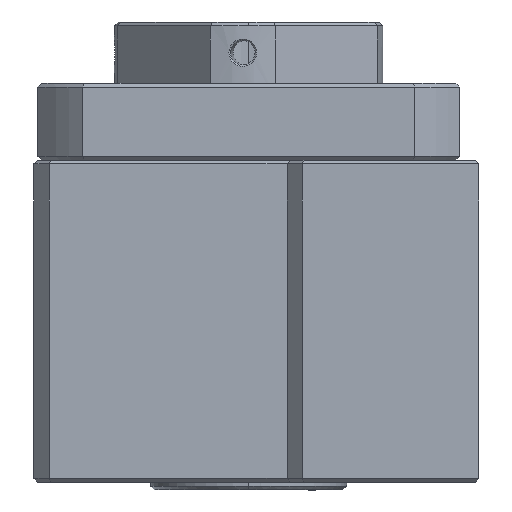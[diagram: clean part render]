
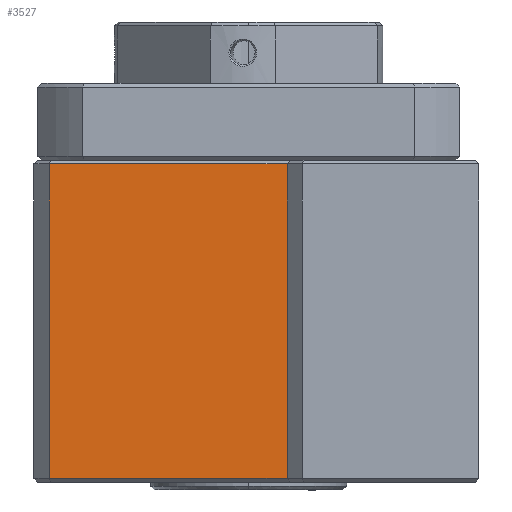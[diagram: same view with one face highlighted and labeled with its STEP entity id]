
A CAD part, left-side view. The second image highlights one B-rep face of the part: STEP entity #3527.
In plain terms, the highlighted planar face has unit normal (1, 0, 0).
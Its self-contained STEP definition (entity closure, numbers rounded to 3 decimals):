
#1068 = B_SPLINE_CURVE_WITH_KNOTS ( 'NONE', 3,
 ( #10196, #6275, #11112, #1311 ),
 .UNSPECIFIED., .F., .F.,
 ( 4, 4 ),
 ( 0., 1. ),
 .UNSPECIFIED. ) ;
#1152 = B_SPLINE_CURVE_WITH_KNOTS ( 'NONE', 3,
 ( #7850, #12773, #1723, #10793 ),
 .UNSPECIFIED., .F., .F.,
 ( 4, 4 ),
 ( 0., 1. ),
 .UNSPECIFIED. ) ;
#1311 = CARTESIAN_POINT ( 'NONE',  ( -78.344, 16.423, 20.5 ) ) ;
#1710 = CARTESIAN_POINT ( 'NONE',  ( -78.344, 37.09, -20.5 ) ) ;
#1723 = CARTESIAN_POINT ( 'NONE',  ( -78.344, 47.423, 6.833 ) ) ;
#2569 = VERTEX_POINT ( 'NONE', #10845 ) ;
#2606 = CARTESIAN_POINT ( 'NONE',  ( -78.344, 16.423, 20.5 ) ) ;
#2968 = CARTESIAN_POINT ( 'NONE',  ( -78.344, 16.423, -20.5 ) ) ;
#2970 = B_SPLINE_CURVE_WITH_KNOTS ( 'NONE', 3,
 ( #11903, #3116, #9877, #11054 ),
 .UNSPECIFIED., .F., .F.,
 ( 4, 4 ),
 ( 0., 1. ),
 .UNSPECIFIED. ) ;
#3116 = CARTESIAN_POINT ( 'NONE',  ( -78.344, 16.423, -6.833 ) ) ;
#3198 = ORIENTED_EDGE ( 'NONE', *, *, #9001, .T. ) ;
#3527 = ADVANCED_FACE ( 'NONE', ( #12475 ), #8413, .T. ) ;
#4841 = EDGE_CURVE ( 'NONE', #7307, #5558, #2970, .T. ) ;
#5558 = VERTEX_POINT ( 'NONE', #2606 ) ;
#5762 = AXIS2_PLACEMENT_3D ( 'NONE', #12406, #7432, #11419 ) ;
#5865 = EDGE_CURVE ( 'NONE', #2569, #5558, #1068, .T. ) ;
#6275 = CARTESIAN_POINT ( 'NONE',  ( -78.344, 37.09, 20.5 ) ) ;
#6588 = VERTEX_POINT ( 'NONE', #8833 ) ;
#6844 = CARTESIAN_POINT ( 'NONE',  ( -78.344, 26.756, -20.5 ) ) ;
#7307 = VERTEX_POINT ( 'NONE', #11940 ) ;
#7432 = DIRECTION ( 'NONE',  ( 1., 0., 0. ) ) ;
#7850 = CARTESIAN_POINT ( 'NONE',  ( -78.344, 47.423, -20.5 ) ) ;
#8032 = ORIENTED_EDGE ( 'NONE', *, *, #4841, .F. ) ;
#8413 = PLANE ( 'NONE',  #5762 ) ;
#8833 = CARTESIAN_POINT ( 'NONE',  ( -78.344, 47.423, -20.5 ) ) ;
#9001 = EDGE_CURVE ( 'NONE', #6588, #2569, #1152, .T. ) ;
#9164 = EDGE_CURVE ( 'NONE', #6588, #7307, #10809, .T. ) ;
#9313 = ORIENTED_EDGE ( 'NONE', *, *, #9164, .F. ) ;
#9877 = CARTESIAN_POINT ( 'NONE',  ( -78.344, 16.423, 6.833 ) ) ;
#10196 = CARTESIAN_POINT ( 'NONE',  ( -78.344, 47.423, 20.5 ) ) ;
#10223 = EDGE_LOOP ( 'NONE', ( #11194, #8032, #9313, #3198 ) ) ;
#10793 = CARTESIAN_POINT ( 'NONE',  ( -78.344, 47.423, 20.5 ) ) ;
#10809 = B_SPLINE_CURVE_WITH_KNOTS ( 'NONE', 3,
 ( #11891, #1710, #6844, #2968 ),
 .UNSPECIFIED., .F., .F.,
 ( 4, 4 ),
 ( 0., 1. ),
 .UNSPECIFIED. ) ;
#10845 = CARTESIAN_POINT ( 'NONE',  ( -78.344, 47.423, 20.5 ) ) ;
#11054 = CARTESIAN_POINT ( 'NONE',  ( -78.344, 16.423, 20.5 ) ) ;
#11112 = CARTESIAN_POINT ( 'NONE',  ( -78.344, 26.756, 20.5 ) ) ;
#11194 = ORIENTED_EDGE ( 'NONE', *, *, #5865, .T. ) ;
#11419 = DIRECTION ( 'NONE',  ( 0., 1., 0. ) ) ;
#11891 = CARTESIAN_POINT ( 'NONE',  ( -78.344, 47.423, -20.5 ) ) ;
#11903 = CARTESIAN_POINT ( 'NONE',  ( -78.344, 16.423, -20.5 ) ) ;
#11940 = CARTESIAN_POINT ( 'NONE',  ( -78.344, 16.423, -20.5 ) ) ;
#12406 = CARTESIAN_POINT ( 'NONE',  ( -78.344, 16.423, -20.5 ) ) ;
#12475 = FACE_OUTER_BOUND ( 'NONE', #10223, .T. ) ;
#12773 = CARTESIAN_POINT ( 'NONE',  ( -78.344, 47.423, -6.833 ) ) ;
